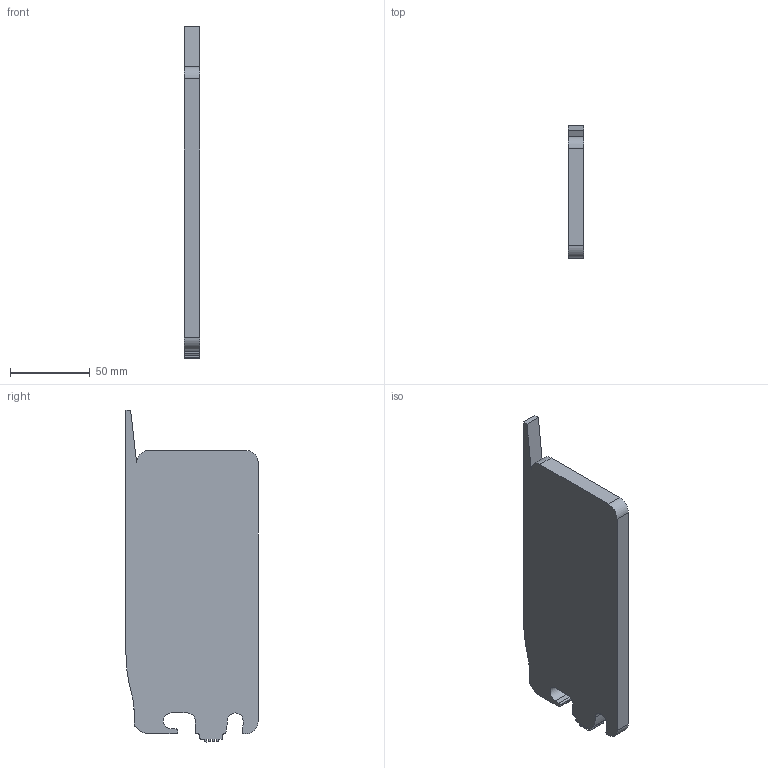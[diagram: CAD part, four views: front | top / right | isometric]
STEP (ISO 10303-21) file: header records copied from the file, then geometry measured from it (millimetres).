
FILE_DESCRIPTION(/* description */ (''),/* implementation_level */ '2;1');
FILE_NAME(/* name */ '/Users/shaischechter/Downloads/Rapid Feeder Simplified v1.step',/* time_stamp */ '2021-01-24T13:15:34-05:00',/* author */ (''),/* organization */ (''),/* preprocessor_version */ 'ST-DEVELOPER v18.1',/* originating_system */ 'Autodesk Translation Framework v9.7.0.1280',/* authorisation */ '');
FILE_SCHEMA (('AUTOMOTIVE_DESIGN { 1 0 10303 214 3 1 1 }'));
Length unit declared in the file: millimetre
Products named in the file (2): Rapid Feeder Simplified; Component1
Assembly tree (1 placements, depth 2):
  Rapid Feeder Simplified
    Component1
Bounding box: 10 x 82.82 x 207.9 mm (x, y, z)
Volume: 142779.5 mm3; surface area: 35235.3 mm2
Topology: 1 solids, 1 shells, 62 faces, 177 edges, 118 vertices
Faces by surface type: plane 41, cylinder 21
Entity records: 2076 total; most frequent: CARTESIAN_POINT 360, ORIENTED_EDGE 354, DIRECTION 349, EDGE_CURVE 177, LINE 135, VECTOR 135, VERTEX_POINT 118, AXIS2_PLACEMENT_3D 107
